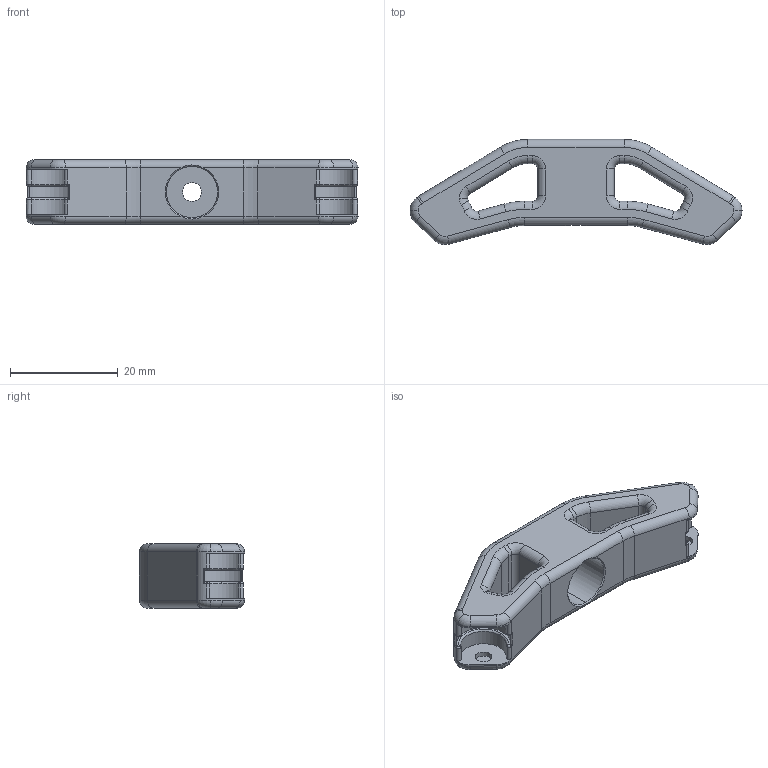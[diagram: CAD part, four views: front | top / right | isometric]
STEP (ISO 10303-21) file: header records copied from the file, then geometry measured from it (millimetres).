
FILE_DESCRIPTION (( 'STEP AP214' ), '1' );
FILE_NAME ('Wishbone-Boby.STEP', '2023-02-12T00:16:40', ( '' ), ( '' ), 'SwSTEP 2.0', 'SolidWorks 2022', '' );
FILE_SCHEMA (( 'AUTOMOTIVE_DESIGN' ));
Length unit declared in the file: millimetre
Products named in the file (1): Wishbone-Boby
Bounding box: 61.68 x 19.53 x 12 mm (x, y, z)
Volume: 6145.6 mm3; surface area: 4419.7 mm2
Topology: 1 solids, 1 shells, 227 faces, 551 edges, 330 vertices
Faces by surface type: cylinder 105, torus 80, plane 36, cone 4, bspline 2
Entity records: 7200 total; most frequent: CARTESIAN_POINT 1614, DIRECTION 1329, ORIENTED_EDGE 1102, AXIS2_PLACEMENT_3D 572, EDGE_CURVE 551, CIRCLE 346, VERTEX_POINT 330, EDGE_LOOP 237
